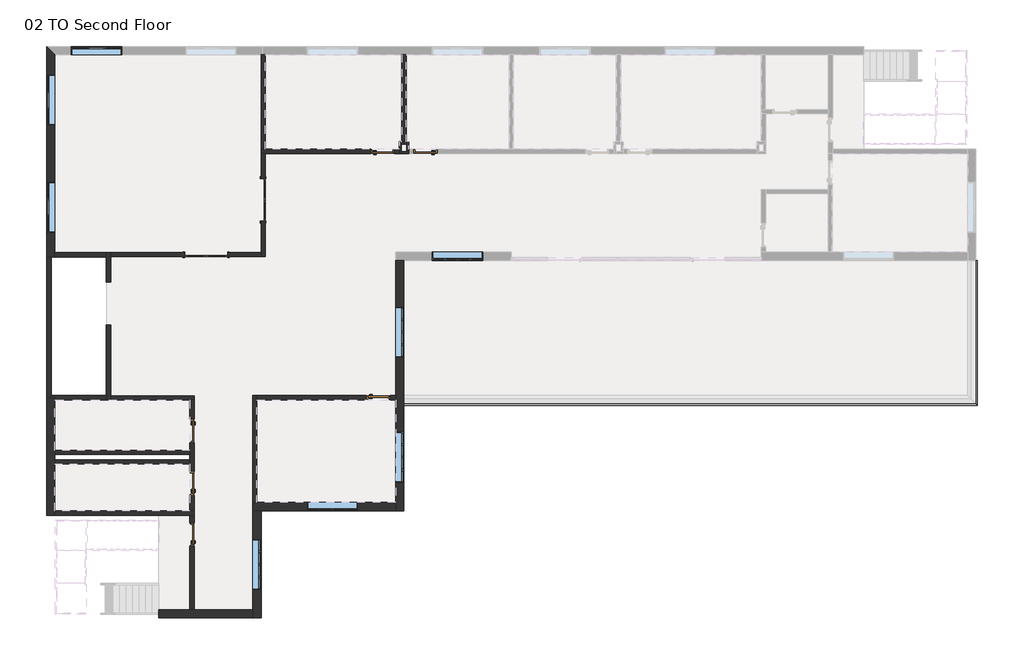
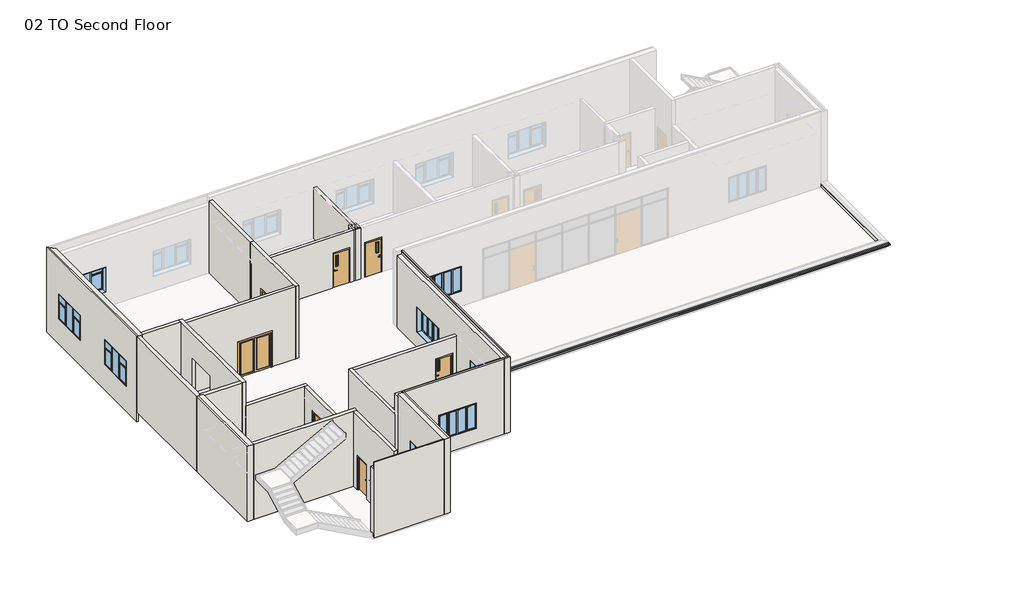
# One storey, part 1 of 3: 29 walls, 8 doors, 8 windows, 2 proxies.
"""IFC4 building model written with IfcOpenShell, lengths in millimetres."""

from ifc_helpers import new_model, si_unit, frame, origin, place, context, project, spatial, polyline, outline, extrude, faceted_brep, transform, mapped, element, save
from components import door_38a2a0c9, door_cf532139, door_1f8fe3fe, door_c4c6d6d8, door_passage_single_vision_lite_a53d2063, door_passage_single_vision_lite_a2a745b5, window_c7d59df6, window_casement_triple_side_transom_c3c25feb

model = new_model("IFC4")

# Units and contexts
model_context = context("Model", 3, world=origin())
ifc_project = project(units=[si_unit("LENGTHUNIT", "METRE", prefix="MILLI")], contexts=[model_context])

# Site, building, storey
site = spatial("IfcSite", under=ifc_project)
building = spatial("IfcBuilding", under=site)
storey = spatial("IfcBuildingStorey", under=building, Name="02 TO Second Floor", Elevation=4572.0)

# Proxies
placement = place(None, origin())
element("IfcBuildingElementProxy", 1, Name="Reveals", at=placement, inside=storey, context=model_context, shape_type="SweptSolid", body=[
    extrude(outline(polyline([(-4282.7273699, -6056.5003362), (-4282.7273699, -5964.4253362), (20075.8726301, -5964.4253362), (20167.9476301, -6056.5003362), (-4282.7273699, -6056.5003362)])), frame((0.0, 0.0, 4648.2), z_axis=(0.0, 0.0, 1.0), x_axis=(1.0, 0.0, 0.0)), (0.0, 0.0, 1.0), 67.7333333),
])
element("IfcBuildingElementProxy", 2, Name="Reveals", at=placement, inside=storey, context=model_context, shape_type="SweptSolid", body=[
    extrude(outline(polyline([(20167.9476301, -6056.5003362), (20075.8726301, -5964.4253362), (20075.8726301, 115.6996638), (20167.9476301, 115.6996638), (20167.9476301, -6056.5003362)])), frame((0.0, 0.0, 4648.2), z_axis=(0.0, 0.0, 1.0), x_axis=(1.0, 0.0, 0.0)), (0.0, 0.0, 1.0), 67.7333333),
])

# Doors
door_shape = door_38a2a0c9(model_context)
element("IfcDoor", 3, ObjectType="Door-Double-Glass : Door Double Glass_72\" x 84\"", at=placement, inside=storey, context=model_context, shape_type="MappedRepresentation", body=[
    mapped(door_shape, transform((-10289.0336199, 2706.4996638, 4572.0), x_axis=(0.0, -1.0, 0.0), y_axis=(1.0, 0.0, 0.0), z_axis=(0.0, 0.0, 1.0))),
])
element("IfcDoor", 4, ObjectType="Door-Double-Glass : Door Double Glass_72\" x 84\"", at=placement, inside=storey, context=model_context, shape_type="MappedRepresentation", body=[
    mapped(door_shape, transform((-12715.5273699, 372.0809138, 4572.0), x_axis=(-1.0, 0.0, 0.0), y_axis=(0.0, -1.0, 0.0), z_axis=(0.0, 0.0, 1.0))),
])
door_2_shape = door_cf532139(model_context)
element("IfcDoor", 5, ObjectType="Door-Passage-Single-Flush : Door Passage Single Flush_36\" x 80\"", at=placement, inside=storey, context=model_context, shape_type="MappedRepresentation", body=[
    mapped(door_2_shape, transform((-13321.9523699, -7158.2253362, 4572.0), x_axis=(0.0, -1.0, 0.0), y_axis=(1.0, 0.0, 0.0), z_axis=(0.0, 0.0, 1.0))),
])
door_3_shape = door_1f8fe3fe(model_context)
element("IfcDoor", 6, ObjectType="Door-Passage-Single-Flush : Door Passage Single Flush_36\" x 80\"", at=placement, inside=storey, context=model_context, shape_type="MappedRepresentation", body=[
    mapped(door_3_shape, transform((-13321.9523699, -9393.4253362, 4572.0), x_axis=(0.0, 1.0, 0.0), y_axis=(-1.0, 0.0, 0.0), z_axis=(0.0, 0.0, 1.0))),
])
door_4_shape = door_c4c6d6d8(model_context)
element("IfcDoor", 7, ObjectType="Door-Passage-Single-Flush : Door Passage Single Flush_36\" x 80\"", at=placement, inside=storey, context=model_context, shape_type="MappedRepresentation", body=[
    mapped(door_4_shape, transform((-13331.4773699, -11577.8253362, 4572.0), x_axis=(0.0, 1.0, 0.0), y_axis=(-1.0, 0.0, 0.0), z_axis=(0.0, 0.0, 1.0))),
])
door_passage_single_vision_lite_shape = door_passage_single_vision_lite_a53d2063(model_context)
element("IfcDoor", 8, ObjectType="Door-Passage-Single-Vision_Lite : B203010_Door Passage SIngle Vision Lite_36\" x 80\"", at=placement, inside=storey, context=model_context, shape_type="MappedRepresentation", body=[
    mapped(door_passage_single_vision_lite_shape, transform((-5197.1273699, 4776.5996638, 4572.0), x_axis=(1.0, 0.0, 0.0), y_axis=(0.0, 1.0, 0.0), z_axis=(0.0, 0.0, 1.0))),
])
door_passage_single_vision_lite_2_shape = door_passage_single_vision_lite_a2a745b5(model_context)
element("IfcDoor", 9, ObjectType="Door-Passage-Single-Vision_Lite : B203010_Door Passage SIngle Vision Lite_36\" x 80\"", at=placement, inside=storey, context=model_context, shape_type="MappedRepresentation", body=[
    mapped(door_passage_single_vision_lite_2_shape, transform((-3368.3273699, 4776.5996638, 4572.0), x_axis=(-1.0, 0.0, 0.0), y_axis=(0.0, -1.0, 0.0), z_axis=(0.0, 0.0, 1.0))),
])
element("IfcDoor", 10, ObjectType="Door-Passage-Single-Vision_Lite : B203010_Door Passage SIngle Vision Lite_36\" x 80\"", at=placement, inside=storey, context=model_context, shape_type="MappedRepresentation", body=[
    mapped(door_passage_single_vision_lite_2_shape, transform((-5374.9273699, -5742.1753362, 4572.0), x_axis=(1.0, 0.0, 0.0), y_axis=(0.0, 1.0, 0.0), z_axis=(0.0, 0.0, 1.0))),
])

# Walls
element("IfcWall", 11, ObjectType="Ext Wall_14\"_Brick on CMU", at=placement, inside=storey, context=model_context, shape_type="Brep", body=[
    faceted_brep([(-4638.3273699, 115.6996638, 4572.0), (-4638.3273699, -5643.7503362, 4572.0), (-4638.3273699, -5827.9003362, 4572.0), (-4638.3273699, -10206.2253362, 4572.0), (-4638.3273699, -10561.8253362, 4572.0), (-4638.3273699, -10561.8253362, 9144.0), (-4638.3273699, -10460.2253362, 9144.0), (-4638.3273699, -10460.2253362, 8966.2), (-4638.3273699, -10206.2253362, 8966.2), (-4638.3273699, 115.6996638, 8966.2), (-4638.3273699, -9355.3253362, 7010.4), (-4638.3273699, -9355.3253362, 5486.4), (-4638.3273699, -7196.3253362, 5486.4), (-4638.3273699, -7196.3253362, 7010.4), (-4638.3273699, -4021.3253362, 7010.4), (-4638.3273699, -4021.3253362, 5486.4), (-4638.3273699, -1862.3253362, 5486.4), (-4638.3273699, -1862.3253362, 7010.4), (-4282.7273699, 115.6996638, 9144.0), (-4282.7273699, -10561.8253362, 9144.0), (-4282.7273699, -10561.8253362, 4572.0), (-4282.7273699, -5989.8253362, 4572.0), (-4282.7273699, -5634.2253362, 4572.0), (-4282.7273699, 115.6996638, 4572.0), (-4282.7273699, -9355.3253362, 5486.4), (-4282.7273699, -9355.3253362, 7010.4), (-4282.7273699, -7196.3253362, 7010.4), (-4282.7273699, -7196.3253362, 5486.4), (-4282.7273699, -4021.3253362, 5486.4), (-4282.7273699, -4021.3253362, 7010.4), (-4282.7273699, -1862.3253362, 7010.4), (-4282.7273699, -1862.3253362, 5486.4), (-4358.9273699, 115.6996638, 4572.0), (-4384.3273699, 115.6996638, 8966.2), (-4384.3273699, 115.6996638, 9144.0), (-4358.9273699, 115.6996638, 9144.0), (-4358.9273699, -10561.8253362, 4572.0), (-4358.9273699, -10561.8253362, 9144.0), (-4384.3273699, -10460.2253362, 8966.2), (-4384.3273699, -10460.2253362, 9144.0)], [[[0, 1, 2, 3, 4, 5, 6, 7, 8, 9], [10, 11, 12, 13], [14, 15, 16, 17]], [[18, 19, 20, 21, 22, 23], [24, 25, 26, 27], [28, 29, 30, 31]], [[18, 23, 32, 0, 9, 33, 34, 35]], [[5, 4, 36, 20, 19, 37]], [[7, 38, 33, 9, 8]], [[38, 39, 34, 33]], [[39, 38, 7, 6]], [[11, 10, 25, 24]], [[12, 11, 24, 27]], [[13, 12, 27, 26]], [[10, 13, 26, 25]], [[15, 14, 29, 28]], [[16, 15, 28, 31]], [[17, 16, 31, 30]], [[14, 17, 30, 29]], [[4, 3, 2, 1, 0, 32, 36]], [[32, 23, 22, 21, 20, 36]], [[19, 18, 35, 37]], [[5, 37, 35, 34, 39, 6]]]),
])
element("IfcWall", 12, ObjectType="Ext Wall_14\"_Brick on CMU", at=placement, inside=storey, context=model_context, shape_type="Brep", body=[
    faceted_brep([(-4638.3273699, -10206.2253362, 4572.0), (-10550.1773699, -10206.2253362, 4572.0), (-10734.3273699, -10206.2253362, 4572.0), (-10734.3273699, -10206.2253362, 7670.8), (-10734.3273699, -10206.2253362, 8966.2), (-4638.3273699, -10206.2253362, 8966.2), (-8410.2273699, -10206.2253362, 7010.4), (-8410.2273699, -10206.2253362, 5486.4), (-6251.2273699, -10206.2253362, 5486.4), (-6251.2273699, -10206.2253362, 7010.4), (-4638.3273699, -10561.8253362, 4572.0), (-4638.3273699, -10561.8253362, 9144.0), (-10378.7273699, -10561.8253362, 9144.0), (-10480.3273699, -10561.8253362, 9144.0), (-10480.3273699, -10561.8253362, 8966.2), (-10734.3273699, -10561.8253362, 8966.2), (-10734.3273699, -10561.8253362, 4572.0), (-10378.7273699, -10561.8253362, 4572.0), (-8410.2273699, -10561.8253362, 5486.4), (-8410.2273699, -10561.8253362, 7010.4), (-6251.2273699, -10561.8253362, 7010.4), (-6251.2273699, -10561.8253362, 5486.4), (-4638.3273699, -10485.6253362, 4572.0), (-4638.3273699, -10460.2253362, 8966.2), (-4638.3273699, -10460.2253362, 9144.0), (-4638.3273699, -10485.6253362, 9144.0), (-10480.3273699, -10460.2253362, 8966.2), (-10480.3273699, -10460.2253362, 9144.0), (-10480.3273699, -10485.6253362, 9144.0), (-10734.3273699, -10485.6253362, 4572.0)], [[[0, 1, 2, 3, 4, 5], [6, 7, 8, 9]], [[10, 11, 12, 13, 14, 15, 16, 17], [18, 19, 20, 21]], [[11, 10, 22, 0, 5, 23, 24, 25]], [[14, 26, 23, 5, 4, 15]], [[27, 26, 14, 13, 28]], [[26, 27, 24, 23]], [[7, 6, 19, 18]], [[8, 7, 18, 21]], [[9, 8, 21, 20]], [[6, 9, 20, 19]], [[2, 29, 16, 15, 4, 3]], [[2, 1, 0, 22, 29]], [[22, 10, 17, 16, 29]], [[11, 25, 28, 13, 12]], [[25, 24, 27, 28]]]),
])
element("IfcWall", 13, ObjectType="Ext Wall_14\"_Brick on CMU", at=placement, inside=storey, context=model_context, shape_type="Brep", body=[
    faceted_brep([(-10734.3273699, -10561.8253362, 9144.0), (-10734.3273699, -10561.8253362, 8966.2), (-10734.3273699, -10561.8253362, 4572.0), (-10734.3273699, -14778.2253362, 4572.0), (-10734.3273699, -15133.8253362, 4572.0), (-10734.3273699, -15133.8253362, 9144.0), (-10734.3273699, -15057.6253362, 9144.0), (-10734.3273699, -13927.3253362, 7010.4), (-10734.3273699, -13927.3253362, 5486.4), (-10734.3273699, -11768.3253362, 5486.4), (-10734.3273699, -11768.3253362, 7010.4), (-10378.7273699, -10561.8253362, 4572.0), (-10378.7273699, -10561.8253362, 9144.0), (-10378.7273699, -15133.8253362, 9144.0), (-10378.7273699, -15133.8253362, 4572.0), (-10378.7273699, -13927.3253362, 7010.4), (-10378.7273699, -11768.3253362, 7010.4), (-10378.7273699, -11768.3253362, 5486.4), (-10378.7273699, -13927.3253362, 5486.4), (-10454.9273699, -15133.8253362, 4572.0), (-10454.9273699, -15133.8253362, 9144.0), (-10480.3273699, -10561.8253362, 9144.0), (-10454.9273699, -10561.8253362, 9144.0), (-10454.9273699, -10561.8253362, 4572.0)], [[[0, 1, 2, 3, 4, 5, 6], [7, 8, 9, 10]], [[11, 12, 13, 14], [15, 16, 17, 18]], [[5, 4, 19, 14, 13, 20]], [[8, 7, 15, 18]], [[9, 8, 18, 17]], [[10, 9, 17, 16]], [[7, 10, 16, 15]], [[0, 21, 22, 12, 11, 23, 2, 1]], [[4, 3, 2, 23, 19]], [[23, 11, 14, 19]], [[20, 13, 12, 22]], [[0, 6, 5, 20, 22, 21]]]),
])
element("IfcWall", 14, ObjectType="Ext Wall_14\"_Brick on CMU", at=placement, inside=storey, context=model_context, shape_type="Brep", body=[
    faceted_brep([(-19167.1273699, -10765.0253362, 4572.0), (-19167.1273699, -8563.1628362, 4572.0), (-19167.1273699, -8394.8878362, 4572.0), (-19167.1273699, -8156.7628362, 4572.0), (-19167.1273699, -7988.4878362, 4572.0), (-19167.1273699, -5735.8253362, 4572.0), (-19167.1273699, -5735.8253362, 9144.0), (-19167.1273699, -10765.0253362, 9144.0), (-19522.7273699, -10765.0253362, 4572.0), (-19522.7273699, -10765.0253362, 9144.0), (-19522.7273699, -5735.8253362, 9144.0), (-19522.7273699, -5735.8253362, 4572.0), (-19319.5273699, -5735.8253362, 4572.0), (-19446.5273699, -5735.8253362, 4572.0), (-19446.5273699, -5735.8253362, 9144.0), (-19319.5273699, -5735.8253362, 9144.0), (-19446.5273699, -10765.0253362, 9144.0), (-19446.5273699, -10765.0253362, 4572.0)], [[[0, 1, 2, 3, 4, 5, 6, 7]], [[8, 9, 10, 11]], [[6, 5, 12, 13, 11, 10, 14, 15]], [[0, 7, 16, 9, 8, 17]], [[5, 4, 3, 2, 1, 0, 17, 13, 12]], [[17, 8, 11, 13]], [[14, 10, 9, 16]], [[7, 6, 15, 14, 16]]]),
])
element("IfcWall", 15, ObjectType="Ext Wall_14\"_Brick on CMU", at=placement, inside=storey, context=model_context, shape_type="SweptSolid", body=[
    extrude(outline(polyline([(-15133.8253362, 4572.0), (-15133.8253362, 9144.0), (-15057.6253362, 9144.0), (-15057.6253362, 8686.8), (-14778.2253362, 8686.8), (-14778.2253362, 4572.0), (-15057.6253362, 4572.0), (-15133.8253362, 4572.0)])), frame((-14747.5273699, 0.0, 0.0), z_axis=(1.0, 0.0, 0.0), x_axis=(0.0, 1.0, 0.0)), (0.0, 0.0, 1.0), 4013.2),
])
element("IfcWall", 16, ObjectType="Ext Wall_14\"_Brick on CMU", at=placement, inside=storey, context=model_context, shape_type="Brep", body=[
    faceted_brep([(-19167.1273699, 258.5746638, 4572.0), (-19167.1273699, 8894.5746638, 4572.0), (-19167.1273699, 8894.5746638, 9144.0), (-19167.1273699, 258.5746638, 9144.0), (-19167.1273699, 8043.6746638, 7010.4), (-19167.1273699, 8043.6746638, 5486.4), (-19167.1273699, 5884.6746638, 5486.4), (-19167.1273699, 5884.6746638, 7010.4), (-19167.1273699, 3471.6746638, 7010.4), (-19167.1273699, 3471.6746638, 5486.4), (-19167.1273699, 1312.6746638, 5486.4), (-19167.1273699, 1312.6746638, 7010.4), (-19522.7273699, 258.5746638, 3962.4), (-19522.7273699, 258.5746638, 4572.0), (-19522.7273699, 258.5746638, 9144.0), (-19522.7273699, 9250.1746638, 9144.0), (-19522.7273699, 9250.1746638, 3962.4), (-19522.7273699, 8043.6746638, 7010.4), (-19522.7273699, 5884.6746638, 7010.4), (-19522.7273699, 5884.6746638, 5486.4), (-19522.7273699, 8043.6746638, 5486.4), (-19522.7273699, 3471.6746638, 7010.4), (-19522.7273699, 1312.6746638, 7010.4), (-19522.7273699, 1312.6746638, 5486.4), (-19522.7273699, 3471.6746638, 5486.4), (-19319.5273699, 258.5746638, 4572.0), (-19446.5273699, 258.5746638, 4572.0), (-19446.5273699, 9173.9746638, 4572.0), (-19446.5273699, 258.5746638, 3962.4), (-19446.5273699, 9173.9746638, 3962.4), (-19446.5273699, 9173.9746638, 9144.0), (-19319.5273699, 258.5746638, 9144.0), (-19446.5273699, 258.5746638, 9144.0)], [[[0, 1, 2, 3], [4, 5, 6, 7], [8, 9, 10, 11]], [[12, 13, 14, 15, 16], [17, 18, 19, 20], [21, 22, 23, 24]], [[1, 0, 25, 26, 27]], [[27, 26, 28, 29]], [[2, 1, 27, 29, 16, 15, 30]], [[4, 7, 18, 17]], [[7, 6, 19, 18]], [[6, 5, 20, 19]], [[5, 4, 17, 20]], [[8, 11, 22, 21]], [[11, 10, 23, 22]], [[10, 9, 24, 23]], [[9, 8, 21, 24]], [[0, 3, 31, 32, 14, 13, 12, 28, 26, 25]], [[28, 12, 16, 29]], [[30, 15, 14, 32]], [[3, 2, 30, 32, 31]]]),
])
element("IfcWall", 17, ObjectType="Ext Wall_Brick on CIP", at=placement, inside=storey, context=model_context, shape_type="Brep", body=[
    faceted_brep([(-19319.5273699, -5735.8253362, 4572.0), (-19319.5273699, 258.5746638, 4572.0), (-19319.5273699, 258.5746638, 9144.0), (-19319.5273699, -5735.8253362, 9144.0), (-19522.7273699, -5735.8253362, 4572.0), (-19522.7273699, -5735.8253362, 9144.0), (-19522.7273699, 258.5746638, 9144.0), (-19522.7273699, 258.5746638, 4572.0), (-19446.5273699, 258.5746638, 4572.0)], [[[0, 1, 2, 3]], [[4, 5, 6, 7]], [[1, 0, 4, 7, 8]], [[3, 2, 6, 5]], [[0, 3, 5, 4]], [[2, 1, 8, 7, 6]]]),
])
element("IfcWall", 18, ObjectType="Ext Wall_Parapet_14\"_Brick on CMU", at=placement, inside=storey, context=model_context, shape_type="Brep", body=[
    faceted_brep([(-4282.7273699, -5989.8253362, 4572.0), (20101.2726301, -5989.8253362, 4572.0), (20101.2726301, -5989.8253362, 4648.2), (-4282.7273699, -5989.8253362, 4648.2), (20101.2726301, -5989.8253362, 4775.2), (-4282.7273699, -5989.8253362, 4775.2), (-4282.7273699, -5989.8253362, 4715.9333333), (20101.2726301, -5989.8253362, 4715.9333333), (20101.2726301, -5634.2253362, 4572.0), (19745.6726301, -5634.2253362, 4572.0), (-4282.7273699, -5634.2253362, 4572.0), (-4282.7273699, -5634.2253362, 4775.2), (19745.6726301, -5634.2253362, 4775.2), (20101.2726301, -5634.2253362, 4775.2), (20101.2726301, -5634.2253362, 4715.9333333), (20075.8726301, -5634.2253362, 4715.9333333), (20075.8726301, -5634.2253362, 4648.2), (20101.2726301, -5634.2253362, 4648.2), (-4282.7273699, -5964.4253362, 4648.2), (-4282.7273699, -5964.4253362, 4715.9333333), (20075.8726301, -5964.4253362, 4715.9333333), (20075.8726301, -5964.4253362, 4648.2)], [[[0, 1, 2, 3]], [[4, 5, 6, 7]], [[8, 9, 10, 11, 12, 13, 14, 15, 16, 17]], [[1, 0, 10, 9, 8]], [[5, 4, 13, 12, 11]], [[5, 11, 10, 0, 3, 18, 19, 6]], [[1, 8, 17, 2]], [[13, 4, 7, 14]], [[20, 19, 18, 21]], [[21, 18, 3, 2, 17, 16]], [[19, 20, 15, 14, 7, 6]], [[20, 21, 16, 15]]]),
])
element("IfcWall", 19, ObjectType="Ext Wall_Parapet_14\"_Brick on CMU", at=placement, inside=storey, context=model_context, shape_type="SweptSolid", body=[
    extrude(outline(polyline([(4775.2, 20101.2726301), (4775.2, 19745.6726301), (4572.0, 19745.6726301), (4572.0, 20101.2726301), (4648.2, 20101.2726301), (4648.2, 20075.8726301), (4715.9333333, 20075.8726301), (4715.9333333, 20101.2726301), (4775.2, 20101.2726301)])), frame((0.0, -5634.2253362, 0.0), z_axis=(0.0, 1.0, 0.0), x_axis=(0.0, 0.0, 1.0)), (0.0, 0.0, 1.0), 5749.925),
])
element("IfcWall", 20, ObjectType="IntWall_P1_7 1/4\"", at=placement, inside=storey, context=model_context, shape_type="Brep", body=[
    faceted_brep([(-10194.5773699, 4862.3246638, 4572.0), (-10194.5773699, 8894.5746638, 4572.0), (-10194.5773699, 8894.5746638, 8966.2), (-10194.5773699, 4770.2496638, 8966.2), (-10194.5773699, 4770.2496638, 7670.8), (-10194.5773699, 4862.3246638, 7670.8), (-10378.7273699, 4862.3246638, 4572.0), (-10378.7273699, 4862.3246638, 7670.8), (-10378.7273699, 4770.2496638, 7670.8), (-10378.7273699, 4770.2496638, 8966.2), (-10378.7273699, 8894.5746638, 8966.2), (-10378.7273699, 8894.5746638, 4572.0), (-10331.1023699, 8894.5746638, 4572.0)], [[[0, 1, 2, 3, 4, 5]], [[6, 7, 8, 9, 10, 11]], [[1, 0, 6, 11, 12]], [[3, 2, 10, 9]], [[4, 3, 9, 8]], [[4, 8, 7, 5]], [[0, 5, 7, 6]], [[2, 1, 12, 11, 10]]]),
])
element("IfcWall", 21, ObjectType="IntWall_P1_7 1/4\"", at=placement, inside=storey, context=model_context, shape_type="Brep", body=[
    faceted_brep([(-10378.7273699, 1792.0996638, 6705.6), (-10378.7273699, 1792.0996638, 4572.0), (-10378.7273699, 461.7746638, 4572.0), (-10378.7273699, 277.6246638, 4572.0), (-10378.7273699, 277.6246638, 8966.2), (-10378.7273699, 461.7746638, 8966.2), (-10378.7273699, 4770.2496638, 8966.2), (-10378.7273699, 4770.2496638, 7670.8), (-10378.7273699, 4678.1746638, 7670.8), (-10378.7273699, 4678.1746638, 4572.0), (-10378.7273699, 3620.8996638, 4572.0), (-10378.7273699, 3620.8996638, 6705.6), (-10194.5773699, 277.6246638, 4572.0), (-10194.5773699, 1792.0996638, 4572.0), (-10194.5773699, 1792.0996638, 6705.6), (-10194.5773699, 3620.8996638, 6705.6), (-10194.5773699, 3620.8996638, 4572.0), (-10194.5773699, 4678.1746638, 4572.0), (-10194.5773699, 4678.1746638, 7670.8), (-10194.5773699, 4770.2496638, 7670.8), (-10194.5773699, 4770.2496638, 8966.2), (-10194.5773699, 277.6246638, 8966.2)], [[[0, 1, 2, 3, 4, 5, 6, 7, 8, 9, 10, 11]], [[12, 13, 14, 15, 16, 17, 18, 19, 20, 21]], [[10, 9, 17, 16]], [[3, 2, 1, 13, 12]], [[6, 5, 4, 21, 20]], [[4, 3, 12, 21]], [[14, 13, 1, 0]], [[15, 14, 0, 11]], [[16, 15, 11, 10]], [[7, 6, 20, 19]], [[7, 19, 18, 8]], [[9, 8, 18, 17]]]),
])
element("IfcWall", 22, ObjectType="IntWall_P1_7 1/4\"", at=placement, inside=storey, context=model_context, shape_type="SweptSolid", body=[
    extrude(outline(polyline([(4572.0, -16779.5273699), (4572.0, -13629.9273699), (6705.6, -13629.9273699), (6705.6, -11801.1273699), (4572.0, -11801.1273699), (4572.0, -10378.7273699), (8966.2, -10378.7273699), (8966.2, -16779.5273699), (4572.0, -16779.5273699)])), frame((0.0, 277.6246638, 0.0), z_axis=(0.0, 1.0, 0.0), x_axis=(0.0, 0.0, 1.0)), (0.0, 0.0, 1.0), 184.15),
])
element("IfcWall", 23, ObjectType="IntWall_P1_7 1/4\"", at=placement, inside=storey, context=model_context, shape_type="Brep", body=[
    faceted_brep([(-16779.5273699, -5837.4253362, 4572.0), (-13407.6773699, -5837.4253362, 4572.0), (-13223.5273699, -5837.4253362, 4572.0), (-13223.5273699, -5837.4253362, 7670.8), (-13407.6773699, -5837.4253362, 7670.8), (-16779.5273699, -5837.4253362, 7670.8), (-16779.5273699, -5653.2753362, 4572.0), (-16779.5273699, -5653.2753362, 7670.8), (-13223.5273699, -5653.2753362, 7670.8), (-13223.5273699, -5653.2753362, 4572.0)], [[[0, 1, 2, 3, 4, 5]], [[6, 7, 8, 9]], [[2, 1, 0, 6, 9]], [[5, 4, 3, 8, 7]], [[3, 2, 9, 8]], [[0, 5, 7, 6]]]),
])
element("IfcWall", 24, ObjectType="IntWall_P1_7 1/4\"", at=placement, inside=storey, context=model_context, shape_type="Brep", body=[
    faceted_brep([(-13223.5273699, -5837.4253362, 7670.8), (-13223.5273699, -10561.8253362, 7670.8), (-13223.5273699, -10561.8253362, 4572.0), (-13223.5273699, -9901.4253362, 4572.0), (-13223.5273699, -9901.4253362, 6705.6), (-13223.5273699, -8885.4253362, 6705.6), (-13223.5273699, -8885.4253362, 4572.0), (-13223.5273699, -7666.2253362, 4572.0), (-13223.5273699, -7666.2253362, 6705.6), (-13223.5273699, -6650.2253362, 6705.6), (-13223.5273699, -6650.2253362, 4572.0), (-13223.5273699, -5837.4253362, 4572.0), (-13407.6773699, -10561.8253362, 7670.8), (-13407.6773699, -5837.4253362, 7670.8), (-13407.6773699, -5837.4253362, 4572.0), (-13407.6773699, -6650.2253362, 4572.0), (-13407.6773699, -6650.2253362, 6705.6), (-13407.6773699, -7666.2253362, 6705.6), (-13407.6773699, -7666.2253362, 4572.0), (-13407.6773699, -7988.4878362, 4572.0), (-13407.6773699, -8156.7628362, 4572.0), (-13407.6773699, -8394.8878362, 4572.0), (-13407.6773699, -8563.1628362, 4572.0), (-13407.6773699, -8885.4253362, 4572.0), (-13407.6773699, -8885.4253362, 6705.6), (-13407.6773699, -9901.4253362, 6705.6), (-13407.6773699, -9901.4253362, 4572.0), (-13407.6773699, -10561.8253362, 4572.0)], [[[0, 1, 2, 3, 4, 5, 6, 7, 8, 9, 10, 11]], [[12, 13, 14, 15, 16, 17, 18, 19, 20, 21, 22, 23, 24, 25, 26, 27]], [[2, 27, 26, 3]], [[14, 11, 10, 15]], [[6, 23, 22, 21, 20, 19, 18, 7]], [[1, 0, 13, 12]], [[2, 1, 12, 27]], [[0, 11, 14, 13]], [[5, 24, 23, 6]], [[24, 5, 4, 25]], [[25, 4, 3, 26]], [[17, 8, 7, 18]], [[8, 17, 16, 9]], [[9, 16, 15, 10]]]),
])
element("IfcWall", 25, ObjectType="IntWall_P1_7 1/4\"", at=placement, inside=storey, context=model_context, shape_type="Brep", body=[
    faceted_brep([(-10550.1773699, -10206.2253362, 4572.0), (-10550.1773699, -5827.9003362, 4572.0), (-10550.1773699, -5643.7503362, 4572.0), (-10550.1773699, -5643.7503362, 7670.8), (-10550.1773699, -5827.9003362, 7670.8), (-10550.1773699, -10206.2253362, 7670.8), (-10734.3273699, -10206.2253362, 4572.0), (-10734.3273699, -10206.2253362, 7670.8), (-10734.3273699, -5643.7503362, 7670.8), (-10734.3273699, -5643.7503362, 4572.0)], [[[0, 1, 2, 3, 4, 5]], [[6, 7, 8, 9]], [[2, 1, 0, 6, 9]], [[5, 4, 3, 8, 7]], [[0, 5, 7, 6]], [[3, 2, 9, 8]]]),
])
element("IfcWall", 26, ObjectType="IntWall_P1_7 1/4\"", at=placement, inside=storey, context=model_context, shape_type="SweptSolid", body=[
    extrude(outline(polyline([(7670.8, -4638.3273699), (7670.8, -10550.1773699), (4572.0, -10550.1773699), (4572.0, -5882.9273699), (6705.6, -5882.9273699), (6705.6, -4866.9273699), (4572.0, -4866.9273699), (4572.0, -4638.3273699), (7670.8, -4638.3273699)])), frame((0.0, -5827.9003362, 0.0), z_axis=(0.0, 1.0, 0.0), x_axis=(0.0, 0.0, 1.0)), (0.0, 0.0, 1.0), 184.15),
])
element("IfcWall", 27, ObjectType="IntWall_P1_7 1/4\"", at=placement, inside=storey, context=model_context, shape_type="Brep", body=[
    faceted_brep([(-10378.7273699, 4862.3246638, 7670.8), (-10194.5773699, 4862.3246638, 7670.8), (-4486.4059277, 4862.3246638, 7670.8), (-4486.4059277, 4862.3246638, 4572.0), (-4689.1273699, 4862.3246638, 4572.0), (-4689.1273699, 4862.3246638, 6705.6), (-5705.1273699, 4862.3246638, 6705.6), (-5705.1273699, 4862.3246638, 4572.0), (-10194.5773699, 4862.3246638, 4572.0), (-10378.7273699, 4862.3246638, 4572.0), (-4486.4059277, 4678.1746638, 7670.8), (-10194.5773699, 4678.1746638, 7670.8), (-10378.7273699, 4678.1746638, 7670.8), (-10378.7273699, 4678.1746638, 4572.0), (-10194.5773699, 4678.1746638, 4572.0), (-5705.1273699, 4678.1746638, 4572.0), (-5705.1273699, 4678.1746638, 6705.6), (-4689.1273699, 4678.1746638, 6705.6), (-4689.1273699, 4678.1746638, 4572.0), (-4486.4059277, 4678.1746638, 4572.0), (-10378.7273699, 4770.2496638, 7670.8)], [[[0, 1, 2, 3, 4, 5, 6, 7, 8, 9]], [[10, 11, 12, 13, 14, 15, 16, 17, 18, 19]], [[13, 9, 8, 7, 15, 14]], [[3, 19, 18, 4]], [[2, 1, 0, 20, 12, 11, 10]], [[0, 9, 13, 12, 20]], [[3, 2, 10, 19]], [[17, 5, 4, 18]], [[5, 17, 16, 6]], [[6, 16, 15, 7]]]),
])
element("IfcWall", 28, ObjectType="IntWall_P1_7 1/4\"", at=placement, inside=storey, context=model_context, shape_type="SweptSolid", body=[
    extrude(outline(polyline([(-4190.6523699, 8894.5746638), (-4190.6523699, 5186.1746638), (-4374.8023699, 5186.1746638), (-4374.8023699, 8894.5746638), (-4190.6523699, 8894.5746638)])), frame((0.0, 0.0, 4572.0), z_axis=(0.0, 0.0, 1.0), x_axis=(1.0, 0.0, 0.0)), (0.0, 0.0, 1.0), 3098.8),
])
element("IfcWall", 29, ObjectType="IntWall_P2_6 5/8\"", at=placement, inside=storey, context=model_context, shape_type="SweptSolid", body=[
    extrude(outline(polyline([(-7988.4878362, 7010.4), (-7988.4878362, 4572.0), (-8156.7628362, 4572.0), (-8156.7628362, 7010.4), (-8004.3628362, 7010.4), (-7988.4878362, 7010.4)])), frame((-19167.1273699, 0.0, 0.0), z_axis=(1.0, 0.0, 0.0), x_axis=(0.0, 1.0, 0.0)), (0.0, 0.0, 1.0), 5759.45),
])
element("IfcWall", 30, ObjectType="IntWall_P2_6 5/8\"", at=placement, inside=storey, context=model_context, shape_type="SweptSolid", body=[
    extrude(outline(polyline([(-8394.8878362, 7010.4), (-8394.8878362, 4572.0), (-8563.1628362, 4572.0), (-8563.1628362, 7010.4), (-8547.2878362, 7010.4), (-8394.8878362, 7010.4)])), frame((-19167.1273699, 0.0, 0.0), z_axis=(1.0, 0.0, 0.0), x_axis=(0.0, 1.0, 0.0)), (0.0, 0.0, 1.0), 5759.45),
])
element("IfcWall", 31, ObjectType="IntWall_P3_3 5/8\"", at=placement, inside=storey, context=model_context, shape_type="Brep", body=[
    faceted_brep([(-4486.4059277, 5094.0996638, 4572.0), (-4394.3309277, 5094.0996638, 4572.0), (-4171.1238122, 5094.0996638, 4572.0), (-4171.1238122, 5094.0996638, 7670.8), (-4394.3309277, 5094.0996638, 7670.8), (-4486.4059277, 5094.0996638, 7670.8), (-4486.4059277, 5186.1746638, 4572.0), (-4486.4059277, 5186.1746638, 7670.8), (-4374.8023699, 5186.1746638, 7670.8), (-4190.6523699, 5186.1746638, 7670.8), (-4171.1238122, 5186.1746638, 7670.8), (-4171.1238122, 5186.1746638, 4572.0), (-4190.6523699, 5186.1746638, 4572.0), (-4374.8023699, 5186.1746638, 4572.0)], [[[0, 1, 2, 3, 4, 5]], [[6, 7, 8, 9, 10, 11, 12, 13]], [[2, 1, 0, 6, 13, 12, 11]], [[5, 4, 3, 10, 9, 8, 7]], [[0, 5, 7, 6]], [[3, 2, 11, 10]]]),
])
element("IfcWall", 32, ObjectType="IntWall_P3_3 5/8\"", at=placement, inside=storey, context=model_context, shape_type="Brep", body=[
    faceted_brep([(-4394.3309277, 4678.1746638, 4572.0), (-4394.3309277, 4770.2496638, 4572.0), (-4394.3309277, 5094.0996638, 4572.0), (-4394.3309277, 5094.0996638, 7670.8), (-4394.3309277, 4770.2496638, 7670.8), (-4394.3309277, 4678.1746638, 7670.8), (-4486.4059277, 4678.1746638, 4572.0), (-4486.4059277, 4678.1746638, 7670.8), (-4486.4059277, 4862.3246638, 7670.8), (-4486.4059277, 5094.0996638, 7670.8), (-4486.4059277, 5094.0996638, 4572.0), (-4486.4059277, 4862.3246638, 4572.0)], [[[0, 1, 2, 3, 4, 5]], [[6, 7, 8, 9, 10, 11]], [[2, 1, 0, 6, 11, 10]], [[5, 4, 3, 9, 8, 7]], [[0, 5, 7, 6]], [[3, 2, 10, 9]]]),
])
element("IfcWall", 33, ObjectType="IntWall_P3_3 5/8\"", at=placement, inside=storey, context=model_context, shape_type="Brep", body=[
    faceted_brep([(-4079.0488122, 4770.2496638, 4572.0), (-4171.1238122, 4770.2496638, 4572.0), (-4394.3309277, 4770.2496638, 4572.0), (-4394.3309277, 4770.2496638, 7670.8), (-4171.1238122, 4770.2496638, 7670.8), (-4079.0488122, 4770.2496638, 7670.8), (-4079.0488122, 4678.1746638, 4572.0), (-4079.0488122, 4678.1746638, 7670.8), (-4394.3309277, 4678.1746638, 7670.8), (-4394.3309277, 4678.1746638, 4572.0)], [[[0, 1, 2, 3, 4, 5]], [[6, 7, 8, 9]], [[2, 1, 0, 6, 9]], [[5, 4, 3, 8, 7]], [[0, 5, 7, 6]], [[3, 2, 9, 8]]]),
])
element("IfcWall", 34, ObjectType="IntWall_P3_3 5/8\"", at=placement, inside=storey, context=model_context, shape_type="Brep", body=[
    faceted_brep([(-4171.1238122, 5186.1746638, 4572.0), (-4171.1238122, 5094.0996638, 4572.0), (-4171.1238122, 4770.2496638, 4572.0), (-4171.1238122, 4770.2496638, 7670.8), (-4171.1238122, 5094.0996638, 7670.8), (-4171.1238122, 5186.1746638, 7670.8), (-4079.0488122, 5186.1746638, 4572.0), (-4079.0488122, 5186.1746638, 7670.8), (-4079.0488122, 4862.3246638, 7670.8), (-4079.0488122, 4770.2496638, 7670.8), (-4079.0488122, 4770.2496638, 4572.0), (-4079.0488122, 4862.3246638, 4572.0)], [[[0, 1, 2, 3, 4, 5]], [[6, 7, 8, 9, 10, 11]], [[2, 1, 0, 6, 11, 10]], [[5, 4, 3, 9, 8, 7]], [[0, 5, 7, 6]], [[3, 2, 10, 9]]]),
])
element("IfcWall", 35, ObjectType="Shear Wall_S1_8\" CIP", at=placement, inside=storey, context=model_context, shape_type="Brep", body=[
    faceted_brep([(-16982.7273699, -5837.4253362, 4572.0), (-16982.7273699, -5837.4253362, 9144.0), (-16982.7273699, -5634.2253362, 9144.0), (-16982.7273699, 258.5746638, 9144.0), (-16982.7273699, 461.7746638, 9144.0), (-16982.7273699, 461.7746638, 4572.0), (-16982.7273699, 258.5746638, 4572.0), (-16982.7273699, -808.2253362, 4572.0), (-16982.7273699, -808.2253362, 7620.0), (-16982.7273699, -2637.0253362, 7620.0), (-16982.7273699, -2637.0253362, 4572.0), (-16982.7273699, -5634.2253362, 4572.0), (-16779.5273699, -5837.4253362, 9144.0), (-16779.5273699, -5837.4253362, 4572.0), (-16779.5273699, -2637.0253362, 4572.0), (-16779.5273699, -2637.0253362, 7620.0), (-16779.5273699, -808.2253362, 7620.0), (-16779.5273699, -808.2253362, 4572.0), (-16779.5273699, 461.7746638, 4572.0), (-16779.5273699, 461.7746638, 9144.0)], [[[0, 1, 2, 3, 4, 5, 6, 7, 8, 9, 10, 11]], [[12, 13, 14, 15, 16, 17, 18, 19]], [[13, 0, 11, 10, 14]], [[5, 18, 17, 7, 6]], [[4, 3, 2, 1, 12, 19]], [[0, 13, 12, 1]], [[4, 19, 18, 5]], [[8, 16, 15, 9]], [[16, 8, 7, 17]], [[9, 15, 14, 10]]]),
])
element("IfcWall", 36, ObjectType="Shear Wall_S1_8\" CIP", at=placement, inside=storey, context=model_context, shape_type="SweptSolid", body=[
    extrude(outline(polyline([(-19319.5273699, -5634.2253362), (-16982.7273699, -5634.2253362), (-16982.7273699, -5837.4253362), (-19167.1273699, -5837.4253362), (-19167.1273699, -5735.8253362), (-19319.5273699, -5735.8253362), (-19319.5273699, -5634.2253362)])), frame((0.0, 0.0, 4572.0), z_axis=(0.0, 0.0, 1.0), x_axis=(1.0, 0.0, 0.0)), (0.0, 0.0, 1.0), 4572.0),
])
element("IfcWall", 37, ObjectType="Shear Wall_S1_8\" CIP", at=placement, inside=storey, context=model_context, shape_type="Brep", body=[
    faceted_brep([(-19167.1273699, -10765.0253362, 4572.0), (-13426.7273699, -10765.0253362, 4572.0), (-13223.5273699, -10765.0253362, 4572.0), (-13223.5273699, -10765.0253362, 9144.0), (-13426.7273699, -10765.0253362, 9144.0), (-19167.1273699, -10765.0253362, 9144.0), (-19167.1273699, -10561.8253362, 4572.0), (-19167.1273699, -10561.8253362, 9144.0), (-13223.5273699, -10561.8253362, 9144.0), (-13223.5273699, -10561.8253362, 4572.0)], [[[0, 1, 2, 3, 4, 5]], [[6, 7, 8, 9]], [[2, 1, 0, 6, 9]], [[5, 4, 3, 8, 7]], [[0, 5, 7, 6]], [[2, 9, 8, 3]]]),
])
element("IfcWall", 38, ObjectType="Shear Wall_S1_8\" CIP", at=placement, inside=storey, context=model_context, shape_type="SweptSolid", body=[
    extrude(outline(polyline([(-14778.2253362, 9144.0), (-10765.0253362, 9144.0), (-10765.0253362, 4572.0), (-11069.8253362, 4572.0), (-11069.8253362, 6705.6), (-12085.8253362, 6705.6), (-12085.8253362, 4572.0), (-14778.2253362, 4572.0), (-14778.2253362, 9144.0)])), frame((-13426.7273699, 0.0, 0.0), z_axis=(1.0, 0.0, 0.0), x_axis=(0.0, 1.0, 0.0)), (0.0, 0.0, 1.0), 203.2),
])
element("IfcWall", 39, ObjectType="Shear Wall_S1_8\" CIP", at=placement, inside=storey, context=model_context, shape_type="SweptSolid", body=[
    extrude(outline(polyline([(-16982.7273699, 258.5746638), (-19167.1273699, 258.5746638), (-19167.1273699, 461.7746638), (-16982.7273699, 461.7746638), (-16982.7273699, 258.5746638)])), frame((0.0, 0.0, 4572.0), z_axis=(0.0, 0.0, 1.0), x_axis=(1.0, 0.0, 0.0)), (0.0, 0.0, 1.0), 4572.0),
])

# Windows
window_shape = window_c7d59df6(model_context)
element("IfcWindow", 40, ObjectType="Window-Casement-Multi-Sash-Horizontal : Multi Sash Window_A_85\" x 60\"", at=placement, inside=storey, context=model_context, shape_type="MappedRepresentation", body=[
    mapped(window_shape, transform((-10556.5273699, -12847.8253362, 4572.0), x_axis=(0.0, -1.0, 0.0), y_axis=(1.0, 0.0, 0.0), z_axis=(0.0, 0.0, 1.0))),
])
element("IfcWindow", 41, ObjectType="Window-Casement-Multi-Sash-Horizontal : Multi Sash Window_A_85\" x 60\"", at=placement, inside=storey, context=model_context, shape_type="MappedRepresentation", body=[
    mapped(window_shape, transform((-7330.7273699, -10384.0253362, 4572.0), x_axis=(-1.0, 0.0, 0.0), y_axis=(0.0, -1.0, 0.0), z_axis=(0.0, 0.0, 1.0))),
])
element("IfcWindow", 42, ObjectType="Window-Casement-Multi-Sash-Horizontal : Multi Sash Window_A_85\" x 60\"", at=placement, inside=storey, context=model_context, shape_type="MappedRepresentation", body=[
    mapped(window_shape, transform((-4460.5273699, -8275.8253362, 4572.0), x_axis=(0.0, -1.0, 0.0), y_axis=(1.0, 0.0, 0.0), z_axis=(0.0, 0.0, 1.0))),
])
element("IfcWindow", 43, ObjectType="Window-Casement-Multi-Sash-Horizontal : Multi Sash Window_A_85\" x 60\"", at=placement, inside=storey, context=model_context, shape_type="MappedRepresentation", body=[
    mapped(window_shape, transform((-4460.5273699, -2941.8253362, 4572.0), x_axis=(0.0, -1.0, 0.0), y_axis=(1.0, 0.0, 0.0), z_axis=(0.0, 0.0, 1.0))),
])
element("IfcWindow", 44, ObjectType="Window-Casement-Multi-Sash-Horizontal : Multi Sash Window_A_85\" x 60\"", at=placement, inside=storey, context=model_context, shape_type="MappedRepresentation", body=[
    mapped(window_shape, transform((-1996.7273699, 293.4996638, 4572.0), x_axis=(-1.0, 0.0, 0.0), y_axis=(0.0, -1.0, 0.0), z_axis=(0.0, 0.0, 1.0))),
])
window_casement_triple_side_transom_shape = window_casement_triple_side_transom_c3c25feb(model_context)
element("IfcWindow", 45, ObjectType="Window-Casement-Triple-Side-Transom : Triple Side WIndow_B_85\" x 60\"", at=placement, inside=storey, context=model_context, shape_type="MappedRepresentation", body=[
    mapped(window_casement_triple_side_transom_shape, transform((-17389.1273699, 9072.3746638, 4572.0), x_axis=(1.0, 0.0, 0.0), y_axis=(0.0, 1.0, 0.0), z_axis=(0.0, 0.0, 1.0))),
])
element("IfcWindow", 46, ObjectType="Window-Casement-Triple-Side-Transom : Triple Side WIndow_B_85\" x 60\"", at=placement, inside=storey, context=model_context, shape_type="MappedRepresentation", body=[
    mapped(window_casement_triple_side_transom_shape, transform((-19344.9273699, 6964.1746638, 4572.0), x_axis=(0.0, 1.0, 0.0), y_axis=(-1.0, 0.0, 0.0), z_axis=(0.0, 0.0, 1.0))),
])
element("IfcWindow", 47, ObjectType="Window-Casement-Triple-Side-Transom : Triple Side WIndow_B_85\" x 60\"", at=placement, inside=storey, context=model_context, shape_type="MappedRepresentation", body=[
    mapped(window_casement_triple_side_transom_shape, transform((-19344.9273699, 2392.1746638, 4572.0), x_axis=(0.0, 1.0, 0.0), y_axis=(-1.0, 0.0, 0.0), z_axis=(0.0, 0.0, 1.0))),
])

save(model, "model.ifc")
